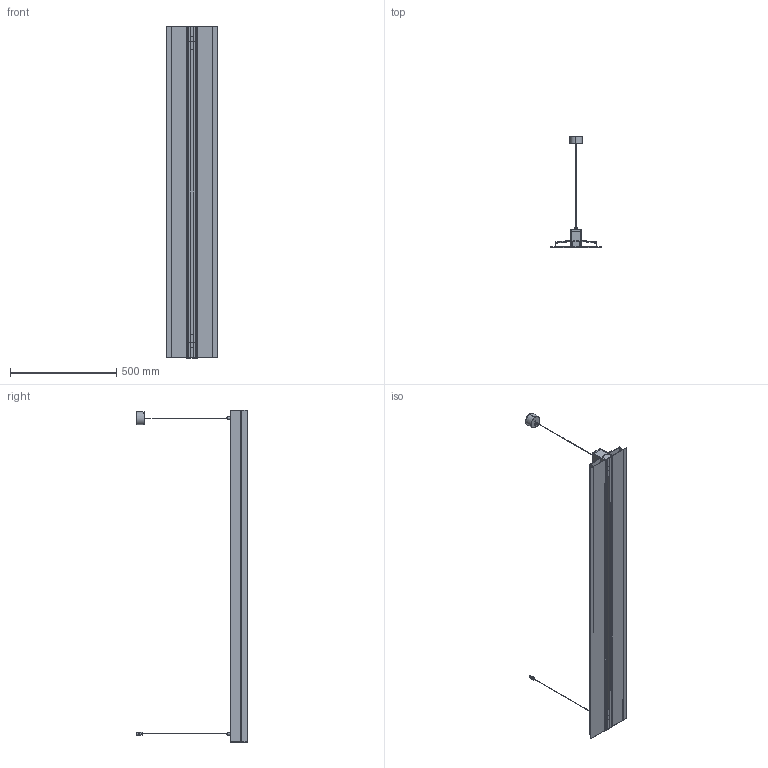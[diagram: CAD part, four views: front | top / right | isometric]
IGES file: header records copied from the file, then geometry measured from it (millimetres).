
Start section: SolidWorks IGES file using analytic representation for surfaces
Global section: file name: C:\Users\JoãoSantos\Desktop\02_3D.2D\01_2020\02_Linear\12_MGB\02_MGB_PendantIndirectTrack\MGB_PENDANT_TRACK_1560.IGS; native system: SolidWorks 2020; preprocessor: SolidWorks 2020; author: JoãoSantos; date: 201022.165639; units: millimetre
Bounding box: 236.5 x 523.62 x 1560.4 mm (x, y, z)
Surface area: 2322064 mm2 (no closed solid volume)
Topology: 0 solids, 0 shells, 406 faces, 4720 edges, 4720 vertices
Faces by surface type: bspline 292, revolution 114
